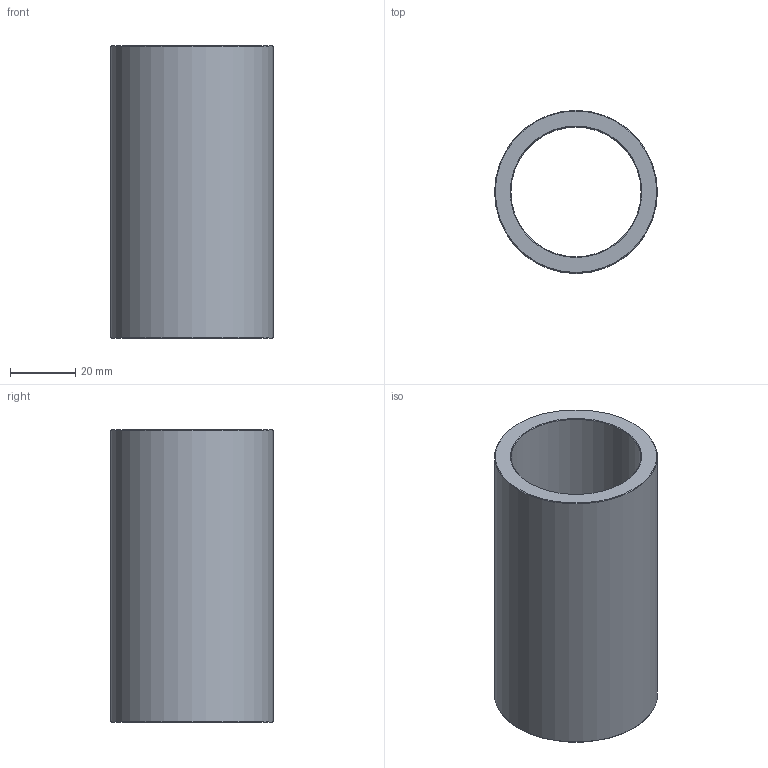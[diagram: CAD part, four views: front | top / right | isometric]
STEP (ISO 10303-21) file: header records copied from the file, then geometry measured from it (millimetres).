
FILE_DESCRIPTION(('STEP AP203'),'1');
FILE_NAME('C:/Users/Rodrigo/Desktop/GA5.040.090-1.step','2016-11-07T18:39:48',(' '),(' '),'Spatial InterOp 3D',' ',' ');
FILE_SCHEMA(('CONFIG_CONTROL_DESIGN'));
Length unit declared in the file: millimetre
Products named in the file (1): 1
Bounding box: 50 x 50 x 90 mm (x, y, z)
Volume: 63605.9 mm3; surface area: 26794.4 mm2
Topology: 1 solids, 1 shells, 8 faces, 14 edges, 8 vertices
Faces by surface type: cone 4, cylinder 2, plane 2
Full cylindrical faces by diameter (mm): 40 x1, 50 x1
Entity records: 212 total; most frequent: DIRECTION 34, CARTESIAN_POINT 25, AXIS2_PLACEMENT_3D 17, EDGE_LOOP 16, ORIENTED_EDGE 16, FACE_OUTER_BOUND 10, ADVANCED_FACE 8, EDGE_CURVE 8
